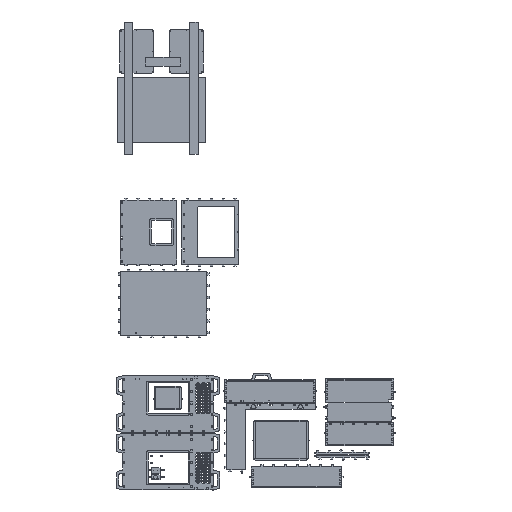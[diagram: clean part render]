
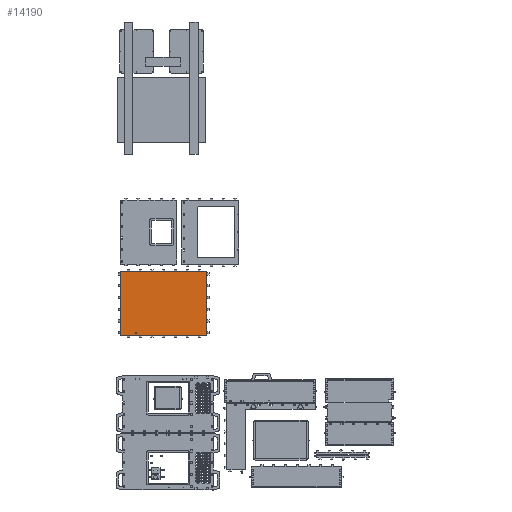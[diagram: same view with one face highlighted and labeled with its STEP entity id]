
A CAD part, top view. The second image highlights one B-rep face of the part: STEP entity #14190.
In plain terms, the highlighted planar face has unit normal (0, 0, 1).
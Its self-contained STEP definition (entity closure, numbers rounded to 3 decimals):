
#688=FACE_BOUND('',#20965,.T.);
#8504=(
BOUNDED_CURVE()
B_SPLINE_CURVE(2,(#110962,#110963,#110964,#110965,#110966),
 .UNSPECIFIED.,.F.,.F.)
B_SPLINE_CURVE_WITH_KNOTS((3,2,3),(0.,7.854,15.708),
 .UNSPECIFIED.)
CURVE()
GEOMETRIC_REPRESENTATION_ITEM()
RATIONAL_B_SPLINE_CURVE((1.,0.707,1.,0.707,1.))
REPRESENTATION_ITEM('')
);
#8508=(
BOUNDED_CURVE()
B_SPLINE_CURVE(2,(#111600,#111601,#111602,#111603,#111604),
 .UNSPECIFIED.,.F.,.F.)
B_SPLINE_CURVE_WITH_KNOTS((3,2,3),(15.708,23.562,31.416),
 .UNSPECIFIED.)
CURVE()
GEOMETRIC_REPRESENTATION_ITEM()
RATIONAL_B_SPLINE_CURVE((1.,0.707,1.,0.707,1.))
REPRESENTATION_ITEM('')
);
#14190=ADVANCED_FACE('',(#17239,#688),#57274,.T.);
#17239=FACE_OUTER_BOUND('',#20964,.T.);
#20964=EDGE_LOOP('',(#37385,#37386,#37387,#37388));
#20965=EDGE_LOOP('',(#37389,#37390));
#37385=ORIENTED_EDGE('',*,*,#46420,.T.);
#37386=ORIENTED_EDGE('',*,*,#46429,.T.);
#37387=ORIENTED_EDGE('',*,*,#46424,.F.);
#37388=ORIENTED_EDGE('',*,*,#46428,.F.);
#37389=ORIENTED_EDGE('',*,*,#46431,.T.);
#37390=ORIENTED_EDGE('',*,*,#46747,.T.);
#46420=EDGE_CURVE('',#55865,#55866,#50106,.T.);
#46424=EDGE_CURVE('',#55869,#55870,#50110,.T.);
#46428=EDGE_CURVE('',#55865,#55869,#50114,.T.);
#46429=EDGE_CURVE('',#55866,#55870,#50115,.T.);
#46431=EDGE_CURVE('',#55872,#56081,#8504,.T.);
#46747=EDGE_CURVE('',#56081,#55872,#8508,.T.);
#50106=B_SPLINE_CURVE_WITH_KNOTS('',1,(#110937,#110938),.UNSPECIFIED.,.F.,
 .F.,(2,2),(0.,580.),.UNSPECIFIED.);
#50110=B_SPLINE_CURVE_WITH_KNOTS('',1,(#110945,#110946),.UNSPECIFIED.,.F.,
 .F.,(2,2),(0.,580.),.UNSPECIFIED.);
#50114=B_SPLINE_CURVE_WITH_KNOTS('',1,(#110953,#110954),.UNSPECIFIED.,.F.,
 .F.,(2,2),(0.,769.),.UNSPECIFIED.);
#50115=B_SPLINE_CURVE_WITH_KNOTS('',1,(#110955,#110956),.UNSPECIFIED.,.F.,
 .F.,(2,2),(0.,769.),.UNSPECIFIED.);
#55865=VERTEX_POINT('',#110715);
#55866=VERTEX_POINT('',#110716);
#55869=VERTEX_POINT('',#110719);
#55870=VERTEX_POINT('',#110720);
#55872=VERTEX_POINT('',#110722);
#56081=VERTEX_POINT('',#110931);
#57274=PLANE('',#58500);
#58500=AXIS2_PLACEMENT_3D('',#110584,#59710,$);
#59710=DIRECTION('',(0.,0.,1.));
#110584=CARTESIAN_POINT('',(767.386,-1369.544,0.));
#110715=CARTESIAN_POINT('',(767.386,-1369.544,0.));
#110716=CARTESIAN_POINT('',(767.386,-827.544,0.));
#110719=CARTESIAN_POINT('',(36.386,-1369.544,0.));
#110720=CARTESIAN_POINT('',(36.386,-827.544,0.));
#110722=CARTESIAN_POINT('',(166.886,-1355.544,0.));
#110931=CARTESIAN_POINT('',(166.886,-1345.544,0.));
#110937=CARTESIAN_POINT('',(767.386,-1369.544,0.));
#110938=CARTESIAN_POINT('',(767.386,-827.544,0.));
#110945=CARTESIAN_POINT('',(36.386,-1369.544,0.));
#110946=CARTESIAN_POINT('',(36.386,-827.544,0.));
#110953=CARTESIAN_POINT('',(767.386,-1369.544,0.));
#110954=CARTESIAN_POINT('',(36.386,-1369.544,0.));
#110955=CARTESIAN_POINT('',(767.386,-827.544,0.));
#110956=CARTESIAN_POINT('',(36.386,-827.544,0.));
#110962=CARTESIAN_POINT('',(166.886,-1355.544,0.));
#110963=CARTESIAN_POINT('',(161.886,-1355.544,0.));
#110964=CARTESIAN_POINT('',(161.886,-1350.544,0.));
#110965=CARTESIAN_POINT('',(161.886,-1345.544,0.));
#110966=CARTESIAN_POINT('',(166.886,-1345.544,0.));
#111600=CARTESIAN_POINT('',(166.886,-1345.544,0.));
#111601=CARTESIAN_POINT('',(171.886,-1345.544,0.));
#111602=CARTESIAN_POINT('',(171.886,-1350.544,0.));
#111603=CARTESIAN_POINT('',(171.886,-1355.544,0.));
#111604=CARTESIAN_POINT('',(166.886,-1355.544,0.));
